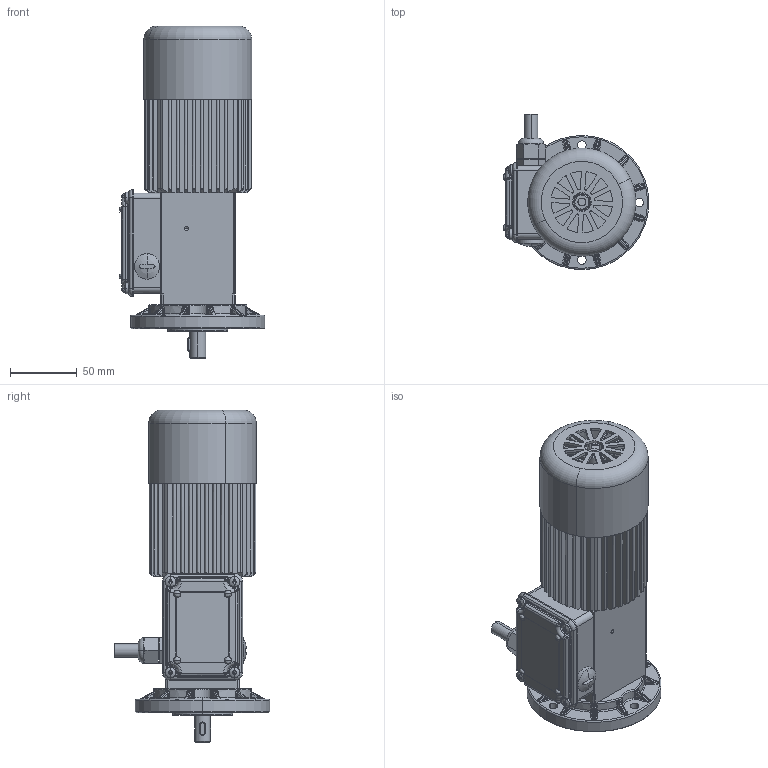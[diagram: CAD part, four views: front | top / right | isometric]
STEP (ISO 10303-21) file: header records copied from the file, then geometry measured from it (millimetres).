
FILE_DESCRIPTION((''),'2;1');
FILE_NAME('C:\Documents and Settings\marco\Desktop\DATI\DATI MARCO\Disegni inventor\STEP\AC\AC_P2-B5.stp','2003-08-26T15:11:25',('Administrator'),(''),'Autodesk Inventor 7','Autodesk Inventor 7','');
FILE_SCHEMA(('AUTOMOTIVE_DESIGN { 1 0 10303 214 1 1 1 1 }'));
Length unit declared in the file: millimetre
Products named in the file (1): AC_P2-B5
Bounding box: 109.2 x 116.25 x 248.68 mm (x, y, z)
Volume: 433696.8 mm3; surface area: 239901.7 mm2
Topology: 20 solids, 20 shells, 3264 faces, 9056 edges, 5535 vertices
Faces by surface type: cylinder 1237, plane 924, bspline 648, torus 231, cone 200, sphere 24
Entity records: 122373 total; most frequent: CARTESIAN_POINT 40305, DIRECTION 17761, ORIENTED_EDGE 17676, EDGE_CURVE 8838, AXIS2_PLACEMENT_3D 7043, VERTEX_POINT 5535, CIRCLE 4264, VECTOR 3675
